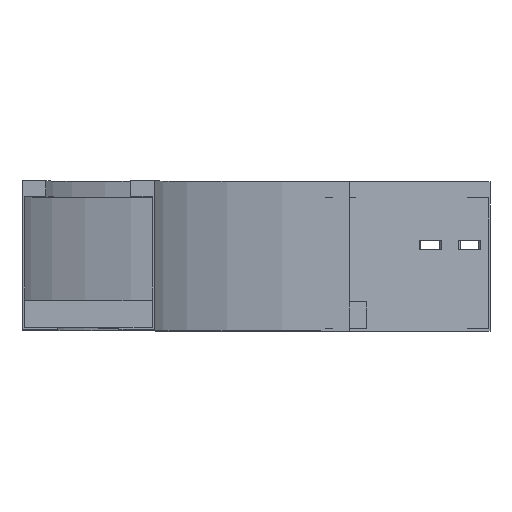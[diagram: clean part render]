
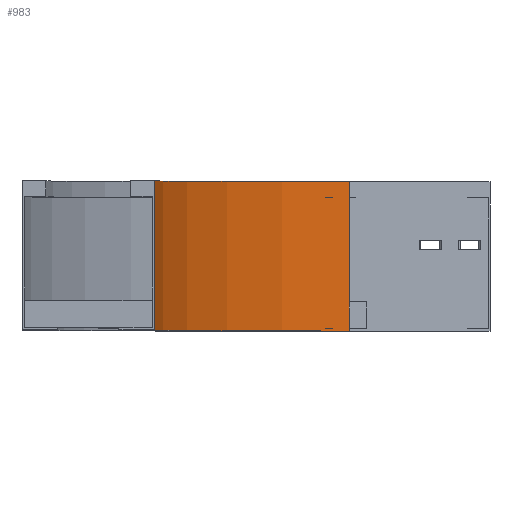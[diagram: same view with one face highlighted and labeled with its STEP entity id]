
A CAD part, top view. The second image highlights one B-rep face of the part: STEP entity #983.
In plain terms, the highlighted cylindrical face has radius 500 mm (diameter 1000 mm), a partial arc.
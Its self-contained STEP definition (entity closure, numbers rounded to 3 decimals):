
#47 = CARTESIAN_POINT ( 'NONE',  ( 500., 0., -150. ) ) ;
#208 = AXIS2_PLACEMENT_3D ( 'NONE', #47, #615, #2347 ) ;
#615 = DIRECTION ( 'NONE',  ( 0., -1., 0. ) ) ;
#651 = CARTESIAN_POINT ( 'NONE',  ( 0., 0., -150. ) ) ;
#653 = AXIS2_PLACEMENT_3D ( 'NONE', #3430, #781, #1645 ) ;
#680 = ORIENTED_EDGE ( 'NONE', *, *, #2127, .F. ) ;
#781 = DIRECTION ( 'NONE',  ( 0., -1., 0. ) ) ;
#910 = AXIS2_PLACEMENT_3D ( 'NONE', #2742, #2448, #3351 ) ;
#983 = ADVANCED_FACE ( 'NONE', ( #2974 ), #2155, .F. ) ;
#988 = ORIENTED_EDGE ( 'NONE', *, *, #2138, .T. ) ;
#1010 = DIRECTION ( 'NONE',  ( 0., 1., 0. ) ) ;
#1136 = CIRCLE ( 'NONE', #208, 500. ) ;
#1164 = CARTESIAN_POINT ( 'NONE',  ( 146.447, 112.5, -503.553 ) ) ;
#1169 = VERTEX_POINT ( 'NONE', #1164 ) ;
#1202 = LINE ( 'NONE', #651, #2486 ) ;
#1281 = CARTESIAN_POINT ( 'NONE',  ( 0., 0., -150. ) ) ;
#1344 = ORIENTED_EDGE ( 'NONE', *, *, #2203, .F. ) ;
#1645 = DIRECTION ( 'NONE',  ( -1., 0., 0. ) ) ;
#1724 = ORIENTED_EDGE ( 'NONE', *, *, #2272, .T. ) ;
#1735 = VECTOR ( 'NONE', #1010, 1000. ) ;
#2127 = EDGE_CURVE ( 'NONE', #2689, #1169, #2980, .T. ) ;
#2138 = EDGE_CURVE ( 'NONE', #2859, #1169, #2461, .T. ) ;
#2149 = CARTESIAN_POINT ( 'NONE',  ( 146.447, 0., -503.553 ) ) ;
#2155 = CYLINDRICAL_SURFACE ( 'NONE', #910, 500. ) ;
#2203 = EDGE_CURVE ( 'NONE', #3840, #2689, #1202, .T. ) ;
#2264 = CARTESIAN_POINT ( 'NONE',  ( 146.447, 0., -503.553 ) ) ;
#2272 = EDGE_CURVE ( 'NONE', #3840, #2859, #1136, .T. ) ;
#2347 = DIRECTION ( 'NONE',  ( -1., 0., 0. ) ) ;
#2448 = DIRECTION ( 'NONE',  ( 0., -1., 0. ) ) ;
#2461 = LINE ( 'NONE', #2149, #1735 ) ;
#2486 = VECTOR ( 'NONE', #3012, 1000. ) ;
#2659 = CARTESIAN_POINT ( 'NONE',  ( 0., 112.5, -150. ) ) ;
#2689 = VERTEX_POINT ( 'NONE', #2659 ) ;
#2742 = CARTESIAN_POINT ( 'NONE',  ( 500., 0., -150. ) ) ;
#2859 = VERTEX_POINT ( 'NONE', #2264 ) ;
#2974 = FACE_OUTER_BOUND ( 'NONE', #2996, .T. ) ;
#2980 = CIRCLE ( 'NONE', #653, 500. ) ;
#2996 = EDGE_LOOP ( 'NONE', ( #680, #1344, #1724, #988 ) ) ;
#3012 = DIRECTION ( 'NONE',  ( 0., 1., 0. ) ) ;
#3351 = DIRECTION ( 'NONE',  ( 0., 0., -1. ) ) ;
#3430 = CARTESIAN_POINT ( 'NONE',  ( 500., 112.5, -150. ) ) ;
#3840 = VERTEX_POINT ( 'NONE', #1281 ) ;
